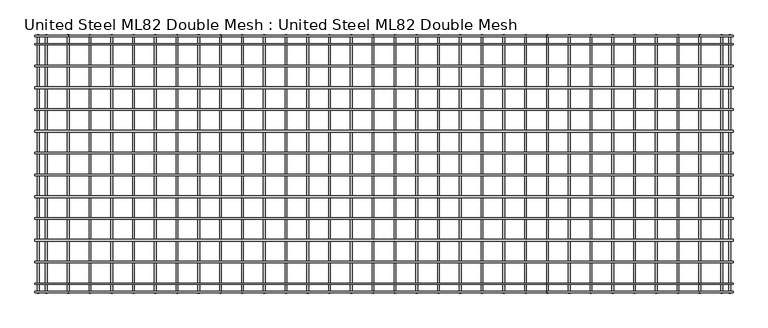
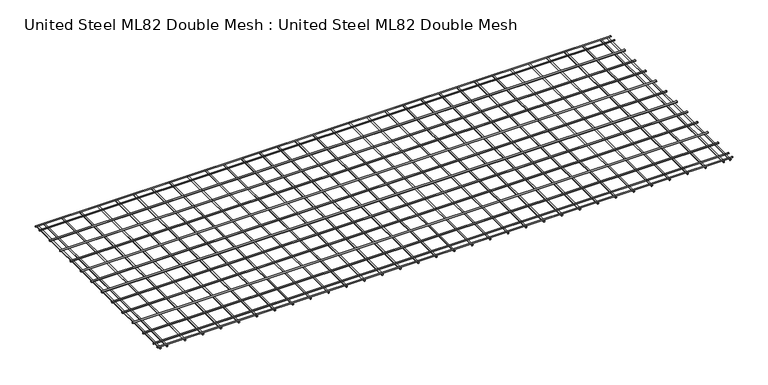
"""IFC4 building model written with IfcOpenShell, lengths in millimetres: proxy geometry, United Steel ML82 Double Mesh : United Steel ML82 Double Mesh."""

from ifc_helpers import new_model, si_unit, point, frame, frame_2d, origin, place, context, project, spatial, circle_curve, trimmed, segment, composite_curve, outline, extrude, source, transform, mapped, element, save


def united_steel_ml82_double_mesh_united_steel_ml82_double_mesh_c1f8a617(model_context):
    return source(origin(), model_context, "Body", "SweptSolid", [
        extrude(outline(composite_curve([segment(trimmed(circle_curve(frame_2d((6.9213846, 1430.0)), 8.0), [point((6.9213846, 1438.0))], [point((6.9213846, 1422.0))], False, "CARTESIAN"), True, "CONTINUOUS"), segment(trimmed(circle_curve(frame_2d((6.9213846, 1430.0)), 8.0), [point((6.9213846, 1422.0))], [point((6.9213846, 1438.0))], False, "CARTESIAN"), True, "CONTINUOUS")], self_intersect=False)), frame((0.0, -2370.0, 0.0), z_axis=(0.0, 1.0, 0.0), x_axis=(0.0, 0.0, 1.0)), (0.0, 0.0, 1.0), 2370.0),
        extrude(outline(composite_curve([segment(trimmed(circle_curve(frame_2d((6.9213846, 1355.0)), 8.0), [point((6.9213846, 1363.0))], [point((6.9213846, 1347.0))], False, "CARTESIAN"), True, "CONTINUOUS"), segment(trimmed(circle_curve(frame_2d((6.9213846, 1355.0)), 8.0), [point((6.9213846, 1347.0))], [point((6.9213846, 1363.0))], False, "CARTESIAN"), True, "CONTINUOUS")], self_intersect=False)), frame((0.0, -2370.0, 0.0), z_axis=(0.0, 1.0, 0.0), x_axis=(0.0, 0.0, 1.0)), (0.0, 0.0, 1.0), 2370.0),
        extrude(outline(composite_curve([segment(trimmed(circle_curve(frame_2d((6.9213846, -4845.0004519)), 8.0), [point((6.9213846, -4837.0004519))], [point((6.9213846, -4853.0004519))], False, "CARTESIAN"), True, "CONTINUOUS"), segment(trimmed(circle_curve(frame_2d((6.9213846, -4845.0004519)), 8.0), [point((6.9213846, -4853.0004519))], [point((6.9213846, -4837.0004519))], False, "CARTESIAN"), True, "CONTINUOUS")], self_intersect=False)), frame((0.0, -2370.0, 0.0), z_axis=(0.0, 1.0, 0.0), x_axis=(0.0, 0.0, 1.0)), (0.0, 0.0, 1.0), 2370.0),
        extrude(outline(composite_curve([segment(trimmed(circle_curve(frame_2d((-2085.0007199, 22.9212393)), 8.0), [point((-2093.0007199, 22.9212393))], [point((-2077.0007199, 22.9212393))], False, "CARTESIAN"), True, "CONTINUOUS"), segment(trimmed(circle_curve(frame_2d((-2085.0007199, 22.9212393)), 8.0), [point((-2077.0007199, 22.9212393))], [point((-2093.0007199, 22.9212393))], False, "CARTESIAN"), True, "CONTINUOUS")], self_intersect=False)), frame((-4950.0, 0.0, 0.0), z_axis=(1.0, 0.0, 0.0), x_axis=(0.0, 1.0, 0.0)), (0.0, 0.0, 1.0), 6410.0),
        extrude(outline(composite_curve([segment(trimmed(circle_curve(frame_2d((-1885.0007199, 22.9212393)), 8.0), [point((-1893.0007199, 22.9212393))], [point((-1877.0007199, 22.9212393))], False, "CARTESIAN"), True, "CONTINUOUS"), segment(trimmed(circle_curve(frame_2d((-1885.0007199, 22.9212393)), 8.0), [point((-1877.0007199, 22.9212393))], [point((-1893.0007199, 22.9212393))], False, "CARTESIAN"), True, "CONTINUOUS")], self_intersect=False)), frame((-4950.0, 0.0, 0.0), z_axis=(1.0, 0.0, 0.0), x_axis=(0.0, 1.0, 0.0)), (0.0, 0.0, 1.0), 6410.0),
        extrude(outline(composite_curve([segment(trimmed(circle_curve(frame_2d((-1685.0007199, 22.9212393)), 8.0), [point((-1693.0007199, 22.9212393))], [point((-1677.0007199, 22.9212393))], False, "CARTESIAN"), True, "CONTINUOUS"), segment(trimmed(circle_curve(frame_2d((-1685.0007199, 22.9212393)), 8.0), [point((-1677.0007199, 22.9212393))], [point((-1693.0007199, 22.9212393))], False, "CARTESIAN"), True, "CONTINUOUS")], self_intersect=False)), frame((-4950.0, 0.0, 0.0), z_axis=(1.0, 0.0, 0.0), x_axis=(0.0, 1.0, 0.0)), (0.0, 0.0, 1.0), 6410.0),
        extrude(outline(composite_curve([segment(trimmed(circle_curve(frame_2d((-1485.0007199, 22.9212393)), 8.0), [point((-1493.0007199, 22.9212393))], [point((-1477.0007199, 22.9212393))], False, "CARTESIAN"), True, "CONTINUOUS"), segment(trimmed(circle_curve(frame_2d((-1485.0007199, 22.9212393)), 8.0), [point((-1477.0007199, 22.9212393))], [point((-1493.0007199, 22.9212393))], False, "CARTESIAN"), True, "CONTINUOUS")], self_intersect=False)), frame((-4950.0, 0.0, 0.0), z_axis=(1.0, 0.0, 0.0), x_axis=(0.0, 1.0, 0.0)), (0.0, 0.0, 1.0), 6410.0),
        extrude(outline(composite_curve([segment(trimmed(circle_curve(frame_2d((-1285.0007199, 22.9212393)), 8.0), [point((-1293.0007199, 22.9212393))], [point((-1277.0007199, 22.9212393))], False, "CARTESIAN"), True, "CONTINUOUS"), segment(trimmed(circle_curve(frame_2d((-1285.0007199, 22.9212393)), 8.0), [point((-1277.0007199, 22.9212393))], [point((-1293.0007199, 22.9212393))], False, "CARTESIAN"), True, "CONTINUOUS")], self_intersect=False)), frame((-4950.0, 0.0, 0.0), z_axis=(1.0, 0.0, 0.0), x_axis=(0.0, 1.0, 0.0)), (0.0, 0.0, 1.0), 6410.0),
        extrude(outline(composite_curve([segment(trimmed(circle_curve(frame_2d((-1085.0007199, 22.9212393)), 8.0), [point((-1093.0007199, 22.9212393))], [point((-1077.0007199, 22.9212393))], False, "CARTESIAN"), True, "CONTINUOUS"), segment(trimmed(circle_curve(frame_2d((-1085.0007199, 22.9212393)), 8.0), [point((-1077.0007199, 22.9212393))], [point((-1093.0007199, 22.9212393))], False, "CARTESIAN"), True, "CONTINUOUS")], self_intersect=False)), frame((-4950.0, 0.0, 0.0), z_axis=(1.0, 0.0, 0.0), x_axis=(0.0, 1.0, 0.0)), (0.0, 0.0, 1.0), 6410.0),
        extrude(outline(composite_curve([segment(trimmed(circle_curve(frame_2d((-885.0007199, 22.9212393)), 8.0), [point((-893.0007199, 22.9212393))], [point((-877.0007199, 22.9212393))], False, "CARTESIAN"), True, "CONTINUOUS"), segment(trimmed(circle_curve(frame_2d((-885.0007199, 22.9212393)), 8.0), [point((-877.0007199, 22.9212393))], [point((-893.0007199, 22.9212393))], False, "CARTESIAN"), True, "CONTINUOUS")], self_intersect=False)), frame((-4950.0, 0.0, 0.0), z_axis=(1.0, 0.0, 0.0), x_axis=(0.0, 1.0, 0.0)), (0.0, 0.0, 1.0), 6410.0),
        extrude(outline(composite_curve([segment(trimmed(circle_curve(frame_2d((-685.0007199, 22.9212393)), 8.0), [point((-693.0007199, 22.9212393))], [point((-677.0007199, 22.9212393))], False, "CARTESIAN"), True, "CONTINUOUS"), segment(trimmed(circle_curve(frame_2d((-685.0007199, 22.9212393)), 8.0), [point((-677.0007199, 22.9212393))], [point((-693.0007199, 22.9212393))], False, "CARTESIAN"), True, "CONTINUOUS")], self_intersect=False)), frame((-4950.0, 0.0, 0.0), z_axis=(1.0, 0.0, 0.0), x_axis=(0.0, 1.0, 0.0)), (0.0, 0.0, 1.0), 6410.0),
        extrude(outline(composite_curve([segment(trimmed(circle_curve(frame_2d((-485.0007199, 22.9212393)), 8.0), [point((-493.0007199, 22.9212393))], [point((-477.0007199, 22.9212393))], False, "CARTESIAN"), True, "CONTINUOUS"), segment(trimmed(circle_curve(frame_2d((-485.0007199, 22.9212393)), 8.0), [point((-477.0007199, 22.9212393))], [point((-493.0007199, 22.9212393))], False, "CARTESIAN"), True, "CONTINUOUS")], self_intersect=False)), frame((-4950.0, 0.0, 0.0), z_axis=(1.0, 0.0, 0.0), x_axis=(0.0, 1.0, 0.0)), (0.0, 0.0, 1.0), 6410.0),
        extrude(outline(composite_curve([segment(trimmed(circle_curve(frame_2d((-2360.0, 21.0190095)), 6.1), [point((-2366.1, 21.0190095))], [point((-2353.9, 21.0190095))], False, "CARTESIAN"), True, "CONTINUOUS"), segment(trimmed(circle_curve(frame_2d((-2360.0, 21.0190095)), 6.1), [point((-2353.9, 21.0190095))], [point((-2366.1, 21.0190095))], False, "CARTESIAN"), True, "CONTINUOUS")], self_intersect=False)), frame((-4950.0, 0.0, 0.0), z_axis=(1.0, 0.0, 0.0), x_axis=(0.0, 1.0, 0.0)), (0.0, 0.0, 1.0), 6410.0),
        extrude(outline(composite_curve([segment(trimmed(circle_curve(frame_2d((-2285.0, 21.0190095)), 6.1), [point((-2291.1, 21.0190095))], [point((-2278.9, 21.0190095))], False, "CARTESIAN"), True, "CONTINUOUS"), segment(trimmed(circle_curve(frame_2d((-2285.0, 21.0190095)), 6.1), [point((-2278.9, 21.0190095))], [point((-2291.1, 21.0190095))], False, "CARTESIAN"), True, "CONTINUOUS")], self_intersect=False)), frame((-4950.0, 0.0, 0.0), z_axis=(1.0, 0.0, 0.0), x_axis=(0.0, 1.0, 0.0)), (0.0, 0.0, 1.0), 6410.0),
        extrude(outline(composite_curve([segment(trimmed(circle_curve(frame_2d((-85.0007199, 21.0190095)), 6.1), [point((-91.1007199, 21.0190095))], [point((-78.9007199, 21.0190095))], False, "CARTESIAN"), True, "CONTINUOUS"), segment(trimmed(circle_curve(frame_2d((-85.0007199, 21.0190095)), 6.1), [point((-78.9007199, 21.0190095))], [point((-91.1007199, 21.0190095))], False, "CARTESIAN"), True, "CONTINUOUS")], self_intersect=False)), frame((-4950.0, 0.0, 0.0), z_axis=(1.0, 0.0, 0.0), x_axis=(0.0, 1.0, 0.0)), (0.0, 0.0, 1.0), 6410.0),
        extrude(outline(composite_curve([segment(trimmed(circle_curve(frame_2d((6.9356765, 1154.9995481)), 8.0), [point((6.9356765, 1146.9995481))], [point((6.9356765, 1162.9995481))], False, "CARTESIAN"), True, "CONTINUOUS"), segment(trimmed(circle_curve(frame_2d((6.9356765, 1154.9995481)), 8.0), [point((6.9356765, 1162.9995481))], [point((6.9356765, 1146.9995481))], False, "CARTESIAN"), True, "CONTINUOUS")], self_intersect=False)), frame((0.0, -2370.0, 0.0), z_axis=(0.0, 1.0, 0.0), x_axis=(0.0, 0.0, 1.0)), (0.0, 0.0, 1.0), 2370.0),
        extrude(outline(composite_curve([segment(trimmed(circle_curve(frame_2d((6.9356765, 954.9995481)), 8.0), [point((6.9356765, 946.9995481))], [point((6.9356765, 962.9995481))], False, "CARTESIAN"), True, "CONTINUOUS"), segment(trimmed(circle_curve(frame_2d((6.9356765, 954.9995481)), 8.0), [point((6.9356765, 962.9995481))], [point((6.9356765, 946.9995481))], False, "CARTESIAN"), True, "CONTINUOUS")], self_intersect=False)), frame((0.0, -2370.0, 0.0), z_axis=(0.0, 1.0, 0.0), x_axis=(0.0, 0.0, 1.0)), (0.0, 0.0, 1.0), 2370.0),
        extrude(outline(composite_curve([segment(trimmed(circle_curve(frame_2d((6.9356765, 754.9995481)), 8.0), [point((6.9356765, 746.9995481))], [point((6.9356765, 762.9995481))], False, "CARTESIAN"), True, "CONTINUOUS"), segment(trimmed(circle_curve(frame_2d((6.9356765, 754.9995481)), 8.0), [point((6.9356765, 762.9995481))], [point((6.9356765, 746.9995481))], False, "CARTESIAN"), True, "CONTINUOUS")], self_intersect=False)), frame((0.0, -2370.0, 0.0), z_axis=(0.0, 1.0, 0.0), x_axis=(0.0, 0.0, 1.0)), (0.0, 0.0, 1.0), 2370.0),
        extrude(outline(composite_curve([segment(trimmed(circle_curve(frame_2d((6.9356765, 554.9995481)), 8.0), [point((6.9356765, 546.9995481))], [point((6.9356765, 562.9995481))], False, "CARTESIAN"), True, "CONTINUOUS"), segment(trimmed(circle_curve(frame_2d((6.9356765, 554.9995481)), 8.0), [point((6.9356765, 562.9995481))], [point((6.9356765, 546.9995481))], False, "CARTESIAN"), True, "CONTINUOUS")], self_intersect=False)), frame((0.0, -2370.0, 0.0), z_axis=(0.0, 1.0, 0.0), x_axis=(0.0, 0.0, 1.0)), (0.0, 0.0, 1.0), 2370.0),
        extrude(outline(composite_curve([segment(trimmed(circle_curve(frame_2d((6.9356765, 354.9995481)), 8.0), [point((6.9356765, 346.9995481))], [point((6.9356765, 362.9995481))], False, "CARTESIAN"), True, "CONTINUOUS"), segment(trimmed(circle_curve(frame_2d((6.9356765, 354.9995481)), 8.0), [point((6.9356765, 362.9995481))], [point((6.9356765, 346.9995481))], False, "CARTESIAN"), True, "CONTINUOUS")], self_intersect=False)), frame((0.0, -2370.0, 0.0), z_axis=(0.0, 1.0, 0.0), x_axis=(0.0, 0.0, 1.0)), (0.0, 0.0, 1.0), 2370.0),
        extrude(outline(composite_curve([segment(trimmed(circle_curve(frame_2d((6.9356765, 154.9995481)), 8.0), [point((6.9356765, 146.9995481))], [point((6.9356765, 162.9995481))], False, "CARTESIAN"), True, "CONTINUOUS"), segment(trimmed(circle_curve(frame_2d((6.9356765, 154.9995481)), 8.0), [point((6.9356765, 162.9995481))], [point((6.9356765, 146.9995481))], False, "CARTESIAN"), True, "CONTINUOUS")], self_intersect=False)), frame((0.0, -2370.0, 0.0), z_axis=(0.0, 1.0, 0.0), x_axis=(0.0, 0.0, 1.0)), (0.0, 0.0, 1.0), 2370.0),
        extrude(outline(composite_curve([segment(trimmed(circle_curve(frame_2d((6.9356765, -45.0004519)), 8.0), [point((6.9356765, -53.0004519))], [point((6.9356765, -37.0004519))], False, "CARTESIAN"), True, "CONTINUOUS"), segment(trimmed(circle_curve(frame_2d((6.9356765, -45.0004519)), 8.0), [point((6.9356765, -37.0004519))], [point((6.9356765, -53.0004519))], False, "CARTESIAN"), True, "CONTINUOUS")], self_intersect=False)), frame((0.0, -2370.0, 0.0), z_axis=(0.0, 1.0, 0.0), x_axis=(0.0, 0.0, 1.0)), (0.0, 0.0, 1.0), 2370.0),
        extrude(outline(composite_curve([segment(trimmed(circle_curve(frame_2d((6.9356765, -245.0004519)), 8.0), [point((6.9356765, -253.0004519))], [point((6.9356765, -237.0004519))], False, "CARTESIAN"), True, "CONTINUOUS"), segment(trimmed(circle_curve(frame_2d((6.9356765, -245.0004519)), 8.0), [point((6.9356765, -237.0004519))], [point((6.9356765, -253.0004519))], False, "CARTESIAN"), True, "CONTINUOUS")], self_intersect=False)), frame((0.0, -2370.0, 0.0), z_axis=(0.0, 1.0, 0.0), x_axis=(0.0, 0.0, 1.0)), (0.0, 0.0, 1.0), 2370.0),
        extrude(outline(composite_curve([segment(trimmed(circle_curve(frame_2d((6.9356765, -445.0004519)), 8.0), [point((6.9356765, -453.0004519))], [point((6.9356765, -437.0004519))], False, "CARTESIAN"), True, "CONTINUOUS"), segment(trimmed(circle_curve(frame_2d((6.9356765, -445.0004519)), 8.0), [point((6.9356765, -437.0004519))], [point((6.9356765, -453.0004519))], False, "CARTESIAN"), True, "CONTINUOUS")], self_intersect=False)), frame((0.0, -2370.0, 0.0), z_axis=(0.0, 1.0, 0.0), x_axis=(0.0, 0.0, 1.0)), (0.0, 0.0, 1.0), 2370.0),
        extrude(outline(composite_curve([segment(trimmed(circle_curve(frame_2d((6.9356765, -645.0004519)), 8.0), [point((6.9356765, -653.0004519))], [point((6.9356765, -637.0004519))], False, "CARTESIAN"), True, "CONTINUOUS"), segment(trimmed(circle_curve(frame_2d((6.9356765, -645.0004519)), 8.0), [point((6.9356765, -637.0004519))], [point((6.9356765, -653.0004519))], False, "CARTESIAN"), True, "CONTINUOUS")], self_intersect=False)), frame((0.0, -2370.0, 0.0), z_axis=(0.0, 1.0, 0.0), x_axis=(0.0, 0.0, 1.0)), (0.0, 0.0, 1.0), 2370.0),
        extrude(outline(composite_curve([segment(trimmed(circle_curve(frame_2d((6.9356765, -845.0004519)), 8.0), [point((6.9356765, -853.0004519))], [point((6.9356765, -837.0004519))], False, "CARTESIAN"), True, "CONTINUOUS"), segment(trimmed(circle_curve(frame_2d((6.9356765, -845.0004519)), 8.0), [point((6.9356765, -837.0004519))], [point((6.9356765, -853.0004519))], False, "CARTESIAN"), True, "CONTINUOUS")], self_intersect=False)), frame((0.0, -2370.0, 0.0), z_axis=(0.0, 1.0, 0.0), x_axis=(0.0, 0.0, 1.0)), (0.0, 0.0, 1.0), 2370.0),
        extrude(outline(composite_curve([segment(trimmed(circle_curve(frame_2d((6.9356765, -1045.0004519)), 8.0), [point((6.9356765, -1053.0004519))], [point((6.9356765, -1037.0004519))], False, "CARTESIAN"), True, "CONTINUOUS"), segment(trimmed(circle_curve(frame_2d((6.9356765, -1045.0004519)), 8.0), [point((6.9356765, -1037.0004519))], [point((6.9356765, -1053.0004519))], False, "CARTESIAN"), True, "CONTINUOUS")], self_intersect=False)), frame((0.0, -2370.0, 0.0), z_axis=(0.0, 1.0, 0.0), x_axis=(0.0, 0.0, 1.0)), (0.0, 0.0, 1.0), 2370.0),
        extrude(outline(composite_curve([segment(trimmed(circle_curve(frame_2d((6.9356765, -1245.0004519)), 8.0), [point((6.9356765, -1253.0004519))], [point((6.9356765, -1237.0004519))], False, "CARTESIAN"), True, "CONTINUOUS"), segment(trimmed(circle_curve(frame_2d((6.9356765, -1245.0004519)), 8.0), [point((6.9356765, -1237.0004519))], [point((6.9356765, -1253.0004519))], False, "CARTESIAN"), True, "CONTINUOUS")], self_intersect=False)), frame((0.0, -2370.0, 0.0), z_axis=(0.0, 1.0, 0.0), x_axis=(0.0, 0.0, 1.0)), (0.0, 0.0, 1.0), 2370.0),
        extrude(outline(composite_curve([segment(trimmed(circle_curve(frame_2d((6.9356765, -1445.0004519)), 8.0), [point((6.9356765, -1453.0004519))], [point((6.9356765, -1437.0004519))], False, "CARTESIAN"), True, "CONTINUOUS"), segment(trimmed(circle_curve(frame_2d((6.9356765, -1445.0004519)), 8.0), [point((6.9356765, -1437.0004519))], [point((6.9356765, -1453.0004519))], False, "CARTESIAN"), True, "CONTINUOUS")], self_intersect=False)), frame((0.0, -2370.0, 0.0), z_axis=(0.0, 1.0, 0.0), x_axis=(0.0, 0.0, 1.0)), (0.0, 0.0, 1.0), 2370.0),
        extrude(outline(composite_curve([segment(trimmed(circle_curve(frame_2d((6.9356765, -1645.0004519)), 8.0), [point((6.9356765, -1653.0004519))], [point((6.9356765, -1637.0004519))], False, "CARTESIAN"), True, "CONTINUOUS"), segment(trimmed(circle_curve(frame_2d((6.9356765, -1645.0004519)), 8.0), [point((6.9356765, -1637.0004519))], [point((6.9356765, -1653.0004519))], False, "CARTESIAN"), True, "CONTINUOUS")], self_intersect=False)), frame((0.0, -2370.0, 0.0), z_axis=(0.0, 1.0, 0.0), x_axis=(0.0, 0.0, 1.0)), (0.0, 0.0, 1.0), 2370.0),
        extrude(outline(composite_curve([segment(trimmed(circle_curve(frame_2d((6.9356765, -1845.0004519)), 8.0), [point((6.9356765, -1853.0004519))], [point((6.9356765, -1837.0004519))], False, "CARTESIAN"), True, "CONTINUOUS"), segment(trimmed(circle_curve(frame_2d((6.9356765, -1845.0004519)), 8.0), [point((6.9356765, -1837.0004519))], [point((6.9356765, -1853.0004519))], False, "CARTESIAN"), True, "CONTINUOUS")], self_intersect=False)), frame((0.0, -2370.0, 0.0), z_axis=(0.0, 1.0, 0.0), x_axis=(0.0, 0.0, 1.0)), (0.0, 0.0, 1.0), 2370.0),
        extrude(outline(composite_curve([segment(trimmed(circle_curve(frame_2d((6.9356765, -2045.0004519)), 8.0), [point((6.9356765, -2053.0004519))], [point((6.9356765, -2037.0004519))], False, "CARTESIAN"), True, "CONTINUOUS"), segment(trimmed(circle_curve(frame_2d((6.9356765, -2045.0004519)), 8.0), [point((6.9356765, -2037.0004519))], [point((6.9356765, -2053.0004519))], False, "CARTESIAN"), True, "CONTINUOUS")], self_intersect=False)), frame((0.0, -2370.0, 0.0), z_axis=(0.0, 1.0, 0.0), x_axis=(0.0, 0.0, 1.0)), (0.0, 0.0, 1.0), 2370.0),
        extrude(outline(composite_curve([segment(trimmed(circle_curve(frame_2d((6.9356765, -2245.0004519)), 8.0), [point((6.9356765, -2253.0004519))], [point((6.9356765, -2237.0004519))], False, "CARTESIAN"), True, "CONTINUOUS"), segment(trimmed(circle_curve(frame_2d((6.9356765, -2245.0004519)), 8.0), [point((6.9356765, -2237.0004519))], [point((6.9356765, -2253.0004519))], False, "CARTESIAN"), True, "CONTINUOUS")], self_intersect=False)), frame((0.0, -2370.0, 0.0), z_axis=(0.0, 1.0, 0.0), x_axis=(0.0, 0.0, 1.0)), (0.0, 0.0, 1.0), 2370.0),
        extrude(outline(composite_curve([segment(trimmed(circle_curve(frame_2d((6.9356765, -2445.0004519)), 8.0), [point((6.9356765, -2453.0004519))], [point((6.9356765, -2437.0004519))], False, "CARTESIAN"), True, "CONTINUOUS"), segment(trimmed(circle_curve(frame_2d((6.9356765, -2445.0004519)), 8.0), [point((6.9356765, -2437.0004519))], [point((6.9356765, -2453.0004519))], False, "CARTESIAN"), True, "CONTINUOUS")], self_intersect=False)), frame((0.0, -2370.0, 0.0), z_axis=(0.0, 1.0, 0.0), x_axis=(0.0, 0.0, 1.0)), (0.0, 0.0, 1.0), 2370.0),
        extrude(outline(composite_curve([segment(trimmed(circle_curve(frame_2d((6.9356765, -2645.0004519)), 8.0), [point((6.9356765, -2653.0004519))], [point((6.9356765, -2637.0004519))], False, "CARTESIAN"), True, "CONTINUOUS"), segment(trimmed(circle_curve(frame_2d((6.9356765, -2645.0004519)), 8.0), [point((6.9356765, -2637.0004519))], [point((6.9356765, -2653.0004519))], False, "CARTESIAN"), True, "CONTINUOUS")], self_intersect=False)), frame((0.0, -2370.0, 0.0), z_axis=(0.0, 1.0, 0.0), x_axis=(0.0, 0.0, 1.0)), (0.0, 0.0, 1.0), 2370.0),
        extrude(outline(composite_curve([segment(trimmed(circle_curve(frame_2d((6.9356765, -2845.0004519)), 8.0), [point((6.9356765, -2853.0004519))], [point((6.9356765, -2837.0004519))], False, "CARTESIAN"), True, "CONTINUOUS"), segment(trimmed(circle_curve(frame_2d((6.9356765, -2845.0004519)), 8.0), [point((6.9356765, -2837.0004519))], [point((6.9356765, -2853.0004519))], False, "CARTESIAN"), True, "CONTINUOUS")], self_intersect=False)), frame((0.0, -2370.0, 0.0), z_axis=(0.0, 1.0, 0.0), x_axis=(0.0, 0.0, 1.0)), (0.0, 0.0, 1.0), 2370.0),
        extrude(outline(composite_curve([segment(trimmed(circle_curve(frame_2d((6.9356765, -3045.0004519)), 8.0), [point((6.9356765, -3053.0004519))], [point((6.9356765, -3037.0004519))], False, "CARTESIAN"), True, "CONTINUOUS"), segment(trimmed(circle_curve(frame_2d((6.9356765, -3045.0004519)), 8.0), [point((6.9356765, -3037.0004519))], [point((6.9356765, -3053.0004519))], False, "CARTESIAN"), True, "CONTINUOUS")], self_intersect=False)), frame((0.0, -2370.0, 0.0), z_axis=(0.0, 1.0, 0.0), x_axis=(0.0, 0.0, 1.0)), (0.0, 0.0, 1.0), 2370.0),
        extrude(outline(composite_curve([segment(trimmed(circle_curve(frame_2d((6.9356765, -3245.0004519)), 8.0), [point((6.9356765, -3253.0004519))], [point((6.9356765, -3237.0004519))], False, "CARTESIAN"), True, "CONTINUOUS"), segment(trimmed(circle_curve(frame_2d((6.9356765, -3245.0004519)), 8.0), [point((6.9356765, -3237.0004519))], [point((6.9356765, -3253.0004519))], False, "CARTESIAN"), True, "CONTINUOUS")], self_intersect=False)), frame((0.0, -2370.0, 0.0), z_axis=(0.0, 1.0, 0.0), x_axis=(0.0, 0.0, 1.0)), (0.0, 0.0, 1.0), 2370.0),
        extrude(outline(composite_curve([segment(trimmed(circle_curve(frame_2d((6.9356765, -3445.0004519)), 8.0), [point((6.9356765, -3453.0004519))], [point((6.9356765, -3437.0004519))], False, "CARTESIAN"), True, "CONTINUOUS"), segment(trimmed(circle_curve(frame_2d((6.9356765, -3445.0004519)), 8.0), [point((6.9356765, -3437.0004519))], [point((6.9356765, -3453.0004519))], False, "CARTESIAN"), True, "CONTINUOUS")], self_intersect=False)), frame((0.0, -2370.0, 0.0), z_axis=(0.0, 1.0, 0.0), x_axis=(0.0, 0.0, 1.0)), (0.0, 0.0, 1.0), 2370.0),
        extrude(outline(composite_curve([segment(trimmed(circle_curve(frame_2d((6.9356765, -3645.0004519)), 8.0), [point((6.9356765, -3653.0004519))], [point((6.9356765, -3637.0004519))], False, "CARTESIAN"), True, "CONTINUOUS"), segment(trimmed(circle_curve(frame_2d((6.9356765, -3645.0004519)), 8.0), [point((6.9356765, -3637.0004519))], [point((6.9356765, -3653.0004519))], False, "CARTESIAN"), True, "CONTINUOUS")], self_intersect=False)), frame((0.0, -2370.0, 0.0), z_axis=(0.0, 1.0, 0.0), x_axis=(0.0, 0.0, 1.0)), (0.0, 0.0, 1.0), 2370.0),
        extrude(outline(composite_curve([segment(trimmed(circle_curve(frame_2d((6.9356765, -3845.0004519)), 8.0), [point((6.9356765, -3853.0004519))], [point((6.9356765, -3837.0004519))], False, "CARTESIAN"), True, "CONTINUOUS"), segment(trimmed(circle_curve(frame_2d((6.9356765, -3845.0004519)), 8.0), [point((6.9356765, -3837.0004519))], [point((6.9356765, -3853.0004519))], False, "CARTESIAN"), True, "CONTINUOUS")], self_intersect=False)), frame((0.0, -2370.0, 0.0), z_axis=(0.0, 1.0, 0.0), x_axis=(0.0, 0.0, 1.0)), (0.0, 0.0, 1.0), 2370.0),
        extrude(outline(composite_curve([segment(trimmed(circle_curve(frame_2d((6.9356765, -4045.0004519)), 8.0), [point((6.9356765, -4053.0004519))], [point((6.9356765, -4037.0004519))], False, "CARTESIAN"), True, "CONTINUOUS"), segment(trimmed(circle_curve(frame_2d((6.9356765, -4045.0004519)), 8.0), [point((6.9356765, -4037.0004519))], [point((6.9356765, -4053.0004519))], False, "CARTESIAN"), True, "CONTINUOUS")], self_intersect=False)), frame((0.0, -2370.0, 0.0), z_axis=(0.0, 1.0, 0.0), x_axis=(0.0, 0.0, 1.0)), (0.0, 0.0, 1.0), 2370.0),
        extrude(outline(composite_curve([segment(trimmed(circle_curve(frame_2d((6.9356765, -4245.0004519)), 8.0), [point((6.9356765, -4253.0004519))], [point((6.9356765, -4237.0004519))], False, "CARTESIAN"), True, "CONTINUOUS"), segment(trimmed(circle_curve(frame_2d((6.9356765, -4245.0004519)), 8.0), [point((6.9356765, -4237.0004519))], [point((6.9356765, -4253.0004519))], False, "CARTESIAN"), True, "CONTINUOUS")], self_intersect=False)), frame((0.0, -2370.0, 0.0), z_axis=(0.0, 1.0, 0.0), x_axis=(0.0, 0.0, 1.0)), (0.0, 0.0, 1.0), 2370.0),
        extrude(outline(composite_curve([segment(trimmed(circle_curve(frame_2d((6.9356765, -4445.0004519)), 8.0), [point((6.9356765, -4453.0004519))], [point((6.9356765, -4437.0004519))], False, "CARTESIAN"), True, "CONTINUOUS"), segment(trimmed(circle_curve(frame_2d((6.9356765, -4445.0004519)), 8.0), [point((6.9356765, -4437.0004519))], [point((6.9356765, -4453.0004519))], False, "CARTESIAN"), True, "CONTINUOUS")], self_intersect=False)), frame((0.0, -2370.0, 0.0), z_axis=(0.0, 1.0, 0.0), x_axis=(0.0, 0.0, 1.0)), (0.0, 0.0, 1.0), 2370.0),
        extrude(outline(composite_curve([segment(trimmed(circle_curve(frame_2d((6.9213846, -4920.0004519)), 8.0), [point((6.9213846, -4912.0004519))], [point((6.9213846, -4928.0004519))], False, "CARTESIAN"), True, "CONTINUOUS"), segment(trimmed(circle_curve(frame_2d((6.9213846, -4920.0004519)), 8.0), [point((6.9213846, -4928.0004519))], [point((6.9213846, -4912.0004519))], False, "CARTESIAN"), True, "CONTINUOUS")], self_intersect=False)), frame((0.0, -2370.0, 0.0), z_axis=(0.0, 1.0, 0.0), x_axis=(0.0, 0.0, 1.0)), (0.0, 0.0, 1.0), 2370.0),
        extrude(outline(composite_curve([segment(trimmed(circle_curve(frame_2d((6.9356765, -4645.0004519)), 8.0), [point((6.9356765, -4653.0004519))], [point((6.9356765, -4637.0004519))], False, "CARTESIAN"), True, "CONTINUOUS"), segment(trimmed(circle_curve(frame_2d((6.9356765, -4645.0004519)), 8.0), [point((6.9356765, -4637.0004519))], [point((6.9356765, -4653.0004519))], False, "CARTESIAN"), True, "CONTINUOUS")], self_intersect=False)), frame((0.0, -2370.0, 0.0), z_axis=(0.0, 1.0, 0.0), x_axis=(0.0, 0.0, 1.0)), (0.0, 0.0, 1.0), 2370.0),
        extrude(outline(composite_curve([segment(trimmed(circle_curve(frame_2d((-285.0007199, 22.9212393)), 8.0), [point((-293.0007199, 22.9212393))], [point((-277.0007199, 22.9212393))], False, "CARTESIAN"), True, "CONTINUOUS"), segment(trimmed(circle_curve(frame_2d((-285.0007199, 22.9212393)), 8.0), [point((-277.0007199, 22.9212393))], [point((-293.0007199, 22.9212393))], False, "CARTESIAN"), True, "CONTINUOUS")], self_intersect=False)), frame((-4950.0, 0.0, 0.0), z_axis=(1.0, 0.0, 0.0), x_axis=(0.0, 1.0, 0.0)), (0.0, 0.0, 1.0), 6410.0),
        extrude(outline(composite_curve([segment(trimmed(circle_curve(frame_2d((-10.0007199, 21.0190095)), 6.1), [point((-16.1007199, 21.0190095))], [point((-3.9007199, 21.0190095))], False, "CARTESIAN"), True, "CONTINUOUS"), segment(trimmed(circle_curve(frame_2d((-10.0007199, 21.0190095)), 6.1), [point((-3.9007199, 21.0190095))], [point((-16.1007199, 21.0190095))], False, "CARTESIAN"), True, "CONTINUOUS")], self_intersect=False)), frame((-4950.0, 0.0, 0.0), z_axis=(1.0, 0.0, 0.0), x_axis=(0.0, 1.0, 0.0)), (0.0, 0.0, 1.0), 6410.0),
    ])


if __name__ == "__main__":
    model = new_model("IFC4")
    model_context = context("Model", 3, world=origin())
    ifc_project = project(units=[si_unit("LENGTHUNIT", "METRE", prefix="MILLI")], contexts=[model_context])
    site = spatial("IfcSite", under=ifc_project)
    building = spatial("IfcBuilding", under=site)
    placement = place(None, origin())
    united_steel_ml82_double_mesh_united_steel_ml82_double_mesh_shape = united_steel_ml82_double_mesh_united_steel_ml82_double_mesh_c1f8a617(model_context)
    element("IfcBuildingElementProxy", 1, Name="United Steel ML82 Double Mesh : United Steel ML82 Double Mesh", ObjectType="United Steel ML82 Double Mesh : United Steel ML82 Double Mesh", at=placement, inside=building, context=model_context, shape_type="MappedRepresentation", body=[
        mapped(united_steel_ml82_double_mesh_united_steel_ml82_double_mesh_shape, transform((0.0, 0.0, 0.0), x_axis=(1.0, 0.0, 0.0), y_axis=(0.0, 1.0, 0.0), z_axis=(0.0, 0.0, 1.0))),
    ])
    save(model, "model.ifc")
